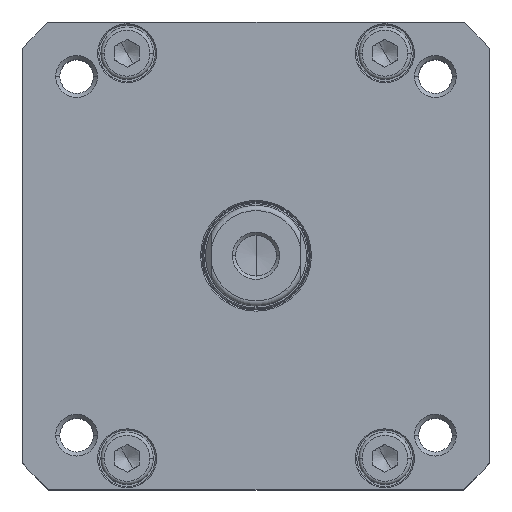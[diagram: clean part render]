
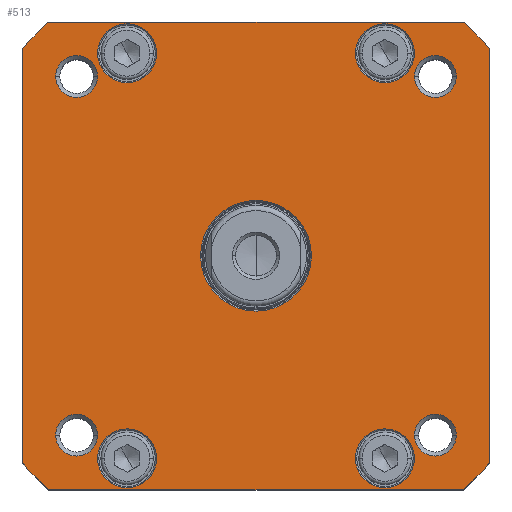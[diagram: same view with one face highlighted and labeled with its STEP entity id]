
A CAD part, top view. The second image highlights one B-rep face of the part: STEP entity #513.
In plain terms, the highlighted planar face has unit normal (0, 0, 1).
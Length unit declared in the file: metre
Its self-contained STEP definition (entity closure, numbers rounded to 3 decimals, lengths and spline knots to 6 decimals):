
#513=ADVANCED_FACE('',(#910,#911,#912,#913,#914,#915,#916,#917,#918,#919),#920,.F.);
#910=FACE_OUTER_BOUND('',#1615,.T.);
#911=FACE_BOUND('',#1616,.T.);
#912=FACE_BOUND('',#1617,.T.);
#913=FACE_BOUND('',#1618,.T.);
#914=FACE_BOUND('',#1619,.T.);
#915=FACE_BOUND('',#1620,.T.);
#916=FACE_BOUND('',#1621,.T.);
#917=FACE_BOUND('',#1622,.T.);
#918=FACE_BOUND('',#1623,.T.);
#919=FACE_BOUND('',#1624,.T.);
#920=PLANE('',#1625);
#1615=EDGE_LOOP('',(#2861,#2862,#2863,#2864,#2865,#2866,#2867,#2868));
#1616=EDGE_LOOP('',(#2869,#2870));
#1617=EDGE_LOOP('',(#2871,#2872));
#1618=EDGE_LOOP('',(#2873,#2874));
#1619=EDGE_LOOP('',(#2875,#2876));
#1620=EDGE_LOOP('',(#2877,#2878));
#1621=EDGE_LOOP('',(#2879,#2880));
#1622=EDGE_LOOP('',(#2881,#2882));
#1623=EDGE_LOOP('',(#2883,#2884));
#1624=EDGE_LOOP('',(#2885,#2886));
#1625=AXIS2_PLACEMENT_3D('',#2887,#2888,#2889);
#2861=ORIENTED_EDGE('',*,*,#4955,.F.);
#2862=ORIENTED_EDGE('',*,*,#4956,.F.);
#2863=ORIENTED_EDGE('',*,*,#4957,.F.);
#2864=ORIENTED_EDGE('',*,*,#4958,.F.);
#2865=ORIENTED_EDGE('',*,*,#4959,.F.);
#2866=ORIENTED_EDGE('',*,*,#4960,.F.);
#2867=ORIENTED_EDGE('',*,*,#4961,.F.);
#2868=ORIENTED_EDGE('',*,*,#4962,.F.);
#2869=ORIENTED_EDGE('',*,*,#4963,.F.);
#2870=ORIENTED_EDGE('',*,*,#4857,.F.);
#2871=ORIENTED_EDGE('',*,*,#4964,.F.);
#2872=ORIENTED_EDGE('',*,*,#4813,.F.);
#2873=ORIENTED_EDGE('',*,*,#4965,.F.);
#2874=ORIENTED_EDGE('',*,*,#4805,.F.);
#2875=ORIENTED_EDGE('',*,*,#4966,.F.);
#2876=ORIENTED_EDGE('',*,*,#4793,.F.);
#2877=ORIENTED_EDGE('',*,*,#4967,.F.);
#2878=ORIENTED_EDGE('',*,*,#4777,.F.);
#2879=ORIENTED_EDGE('',*,*,#4968,.F.);
#2880=ORIENTED_EDGE('',*,*,#4785,.F.);
#2881=ORIENTED_EDGE('',*,*,#4969,.F.);
#2882=ORIENTED_EDGE('',*,*,#4801,.F.);
#2883=ORIENTED_EDGE('',*,*,#4970,.F.);
#2884=ORIENTED_EDGE('',*,*,#4809,.F.);
#2885=ORIENTED_EDGE('',*,*,#4971,.F.);
#2886=ORIENTED_EDGE('',*,*,#4817,.F.);
#2887=CARTESIAN_POINT('',(0.,0.,0.117));
#2888=DIRECTION('',(0.0,0.0,-1.0));
#2889=DIRECTION('',(0.0,-1.0,0.0));
#4777=EDGE_CURVE('',#6032,#6034,#6035,.T.);
#4785=EDGE_CURVE('',#6046,#6048,#6049,.T.);
#4793=EDGE_CURVE('',#6060,#6062,#6063,.T.);
#4801=EDGE_CURVE('',#6074,#6076,#6077,.T.);
#4805=EDGE_CURVE('',#6080,#6083,#6084,.T.);
#4809=EDGE_CURVE('',#6088,#6091,#6092,.T.);
#4813=EDGE_CURVE('',#6096,#6099,#6100,.T.);
#4817=EDGE_CURVE('',#6104,#6107,#6108,.T.);
#4857=EDGE_CURVE('',#6168,#6170,#6171,.T.);
#4955=EDGE_CURVE('',#6353,#6354,#6355,.T.);
#4956=EDGE_CURVE('',#6356,#6353,#6357,.T.);
#4957=EDGE_CURVE('',#6358,#6356,#6359,.T.);
#4958=EDGE_CURVE('',#6360,#6358,#6361,.T.);
#4959=EDGE_CURVE('',#6362,#6360,#6363,.T.);
#4960=EDGE_CURVE('',#6364,#6362,#6365,.T.);
#4961=EDGE_CURVE('',#6366,#6364,#6367,.T.);
#4962=EDGE_CURVE('',#6354,#6366,#6368,.T.);
#4963=EDGE_CURVE('',#6170,#6168,#6369,.T.);
#4964=EDGE_CURVE('',#6099,#6096,#6370,.T.);
#4965=EDGE_CURVE('',#6083,#6080,#6371,.T.);
#4966=EDGE_CURVE('',#6062,#6060,#6372,.T.);
#4967=EDGE_CURVE('',#6034,#6032,#6373,.T.);
#4968=EDGE_CURVE('',#6048,#6046,#6374,.T.);
#4969=EDGE_CURVE('',#6076,#6074,#6375,.T.);
#4970=EDGE_CURVE('',#6091,#6088,#6376,.T.);
#4971=EDGE_CURVE('',#6107,#6104,#6377,.T.);
#6032=VERTEX_POINT('',#7534);
#6034=VERTEX_POINT('',#7537);
#6035=CIRCLE('',#7538,0.0073);
#6046=VERTEX_POINT('',#7552);
#6048=VERTEX_POINT('',#7555);
#6049=CIRCLE('',#7556,0.0073);
#6060=VERTEX_POINT('',#7570);
#6062=VERTEX_POINT('',#7573);
#6063=CIRCLE('',#7574,0.0073);
#6074=VERTEX_POINT('',#7588);
#6076=VERTEX_POINT('',#7591);
#6077=CIRCLE('',#7592,0.0073);
#6080=VERTEX_POINT('',#7596);
#6083=VERTEX_POINT('',#7600);
#6084=CIRCLE('',#7601,0.005188);
#6088=VERTEX_POINT('',#7606);
#6091=VERTEX_POINT('',#7610);
#6092=CIRCLE('',#7611,0.005188);
#6096=VERTEX_POINT('',#7616);
#6099=VERTEX_POINT('',#7620);
#6100=CIRCLE('',#7621,0.005188);
#6104=VERTEX_POINT('',#7626);
#6107=VERTEX_POINT('',#7630);
#6108=CIRCLE('',#7631,0.005188);
#6168=VERTEX_POINT('',#7710);
#6170=VERTEX_POINT('',#7713);
#6171=CIRCLE('',#7714,0.01375);
#6353=VERTEX_POINT('',#8149);
#6354=VERTEX_POINT('',#8150);
#6355=LINE('',#8151,#8152);
#6356=VERTEX_POINT('',#8153);
#6357=CIRCLE('',#8154,0.0775);
#6358=VERTEX_POINT('',#8155);
#6359=LINE('',#8156,#8157);
#6360=VERTEX_POINT('',#8158);
#6361=CIRCLE('',#8159,0.0775);
#6362=VERTEX_POINT('',#8160);
#6363=LINE('',#8161,#8162);
#6364=VERTEX_POINT('',#8163);
#6365=CIRCLE('',#8164,0.0775);
#6366=VERTEX_POINT('',#8165);
#6367=LINE('',#8166,#8167);
#6368=CIRCLE('',#8168,0.0775);
#6369=CIRCLE('',#8169,0.01375);
#6370=CIRCLE('',#8170,0.005188);
#6371=CIRCLE('',#8171,0.005188);
#6372=CIRCLE('',#8172,0.0073);
#6373=CIRCLE('',#8173,0.0073);
#6374=CIRCLE('',#8174,0.0073);
#6375=CIRCLE('',#8175,0.0073);
#6376=CIRCLE('',#8176,0.005188);
#6377=CIRCLE('',#8177,0.005188);
#7534=CARTESIAN_POINT('',(-0.0247,0.05025,0.117));
#7537=CARTESIAN_POINT('',(-0.0393,0.05025,0.117));
#7538=AXIS2_PLACEMENT_3D('',#9975,#9976,#9977);
#7552=CARTESIAN_POINT('',(0.0393,0.05025,0.117));
#7555=CARTESIAN_POINT('',(0.0247,0.05025,0.117));
#7556=AXIS2_PLACEMENT_3D('',#9991,#9992,#9993);
#7570=CARTESIAN_POINT('',(0.0393,-0.05025,0.117));
#7573=CARTESIAN_POINT('',(0.0247,-0.05025,0.117));
#7574=AXIS2_PLACEMENT_3D('',#10007,#10008,#10009);
#7588=CARTESIAN_POINT('',(-0.0247,-0.05025,0.117));
#7591=CARTESIAN_POINT('',(-0.0393,-0.05025,0.117));
#7592=AXIS2_PLACEMENT_3D('',#10023,#10024,#10025);
#7596=CARTESIAN_POINT('',(0.049688,-0.0445,0.117));
#7600=CARTESIAN_POINT('',(0.039312,-0.0445,0.117));
#7601=AXIS2_PLACEMENT_3D('',#10031,#10032,#10033);
#7606=CARTESIAN_POINT('',(0.049688,0.0445,0.117));
#7610=CARTESIAN_POINT('',(0.039312,0.0445,0.117));
#7611=AXIS2_PLACEMENT_3D('',#10039,#10040,#10041);
#7616=CARTESIAN_POINT('',(-0.039312,0.0445,0.117));
#7620=CARTESIAN_POINT('',(-0.049688,0.0445,0.117));
#7621=AXIS2_PLACEMENT_3D('',#10047,#10048,#10049);
#7626=CARTESIAN_POINT('',(-0.039312,-0.0445,0.117));
#7630=CARTESIAN_POINT('',(-0.049688,-0.0445,0.117));
#7631=AXIS2_PLACEMENT_3D('',#10055,#10056,#10057);
#7710=CARTESIAN_POINT('',(0.,0.01375,0.117));
#7713=CARTESIAN_POINT('',(0.,-0.01375,0.117));
#7714=AXIS2_PLACEMENT_3D('',#10135,#10136,#10137);
#8149=CARTESIAN_POINT('',(-0.051403,0.058,0.117));
#8150=CARTESIAN_POINT('',(0.051403,0.058,0.117));
#8151=CARTESIAN_POINT('',(-0.051403,0.058,0.117));
#8152=VECTOR('',#10289,0.102806);
#8153=CARTESIAN_POINT('',(-0.058,0.051403,0.117));
#8154=AXIS2_PLACEMENT_3D('',#10290,#10291,#10292);
#8155=CARTESIAN_POINT('',(-0.058,-0.051403,0.117));
#8156=CARTESIAN_POINT('',(-0.058,-0.051403,0.117));
#8157=VECTOR('',#10293,0.102806);
#8158=CARTESIAN_POINT('',(-0.051403,-0.058,0.117));
#8159=AXIS2_PLACEMENT_3D('',#10294,#10295,#10296);
#8160=CARTESIAN_POINT('',(0.051403,-0.058,0.117));
#8161=CARTESIAN_POINT('',(0.051403,-0.058,0.117));
#8162=VECTOR('',#10297,0.102806);
#8163=CARTESIAN_POINT('',(0.058,-0.051403,0.117));
#8164=AXIS2_PLACEMENT_3D('',#10298,#10299,#10300);
#8165=CARTESIAN_POINT('',(0.058,0.051403,0.117));
#8166=CARTESIAN_POINT('',(0.058,0.051403,0.117));
#8167=VECTOR('',#10301,0.102806);
#8168=AXIS2_PLACEMENT_3D('',#10302,#10303,#10304);
#8169=AXIS2_PLACEMENT_3D('',#10305,#10306,#10307);
#8170=AXIS2_PLACEMENT_3D('',#10308,#10309,#10310);
#8171=AXIS2_PLACEMENT_3D('',#10311,#10312,#10313);
#8172=AXIS2_PLACEMENT_3D('',#10314,#10315,#10316);
#8173=AXIS2_PLACEMENT_3D('',#10317,#10318,#10319);
#8174=AXIS2_PLACEMENT_3D('',#10320,#10321,#10322);
#8175=AXIS2_PLACEMENT_3D('',#10323,#10324,#10325);
#8176=AXIS2_PLACEMENT_3D('',#10326,#10327,#10328);
#8177=AXIS2_PLACEMENT_3D('',#10329,#10330,#10331);
#9975=CARTESIAN_POINT('',(-0.032,0.05025,0.117));
#9976=DIRECTION('',(0.0,0.0,1.0));
#9977=DIRECTION('',(1.0,0.0,0.0));
#9991=CARTESIAN_POINT('',(0.032,0.05025,0.117));
#9992=DIRECTION('',(0.0,0.0,1.0));
#9993=DIRECTION('',(1.0,0.0,0.0));
#10007=CARTESIAN_POINT('',(0.032,-0.05025,0.117));
#10008=DIRECTION('',(0.0,0.0,1.0));
#10009=DIRECTION('',(1.0,0.0,0.0));
#10023=CARTESIAN_POINT('',(-0.032,-0.05025,0.117));
#10024=DIRECTION('',(0.0,0.0,1.0));
#10025=DIRECTION('',(1.0,0.0,0.0));
#10031=CARTESIAN_POINT('',(0.0445,-0.0445,0.117));
#10032=DIRECTION('',(0.0,0.0,1.0));
#10033=DIRECTION('',(1.0,0.0,0.0));
#10039=CARTESIAN_POINT('',(0.0445,0.0445,0.117));
#10040=DIRECTION('',(0.0,0.0,1.0));
#10041=DIRECTION('',(1.0,0.0,0.0));
#10047=CARTESIAN_POINT('',(-0.0445,0.0445,0.117));
#10048=DIRECTION('',(0.0,0.0,1.0));
#10049=DIRECTION('',(1.0,0.0,0.0));
#10055=CARTESIAN_POINT('',(-0.0445,-0.0445,0.117));
#10056=DIRECTION('',(0.0,0.0,1.0));
#10057=DIRECTION('',(1.0,0.0,0.0));
#10135=CARTESIAN_POINT('',(0.0,0.,0.117));
#10136=DIRECTION('',(0.0,-0.0,1.0));
#10137=DIRECTION('',(0.0,1.0,0.0));
#10289=DIRECTION('',(1.0,0.0,0.0));
#10290=CARTESIAN_POINT('',(0.0,0.,0.117));
#10291=DIRECTION('',(0.0,0.0,-1.0));
#10292=DIRECTION('',(-0.748,0.663,0.0));
#10293=DIRECTION('',(0.0,1.0,0.0));
#10294=CARTESIAN_POINT('',(0.0,0.,0.117));
#10295=DIRECTION('',(-0.0,0.0,-1.0));
#10296=DIRECTION('',(-0.663,-0.748,0.0));
#10297=DIRECTION('',(-1.0,0.0,0.0));
#10298=CARTESIAN_POINT('',(0.0,0.,0.117));
#10299=DIRECTION('',(0.0,0.0,-1.0));
#10300=DIRECTION('',(0.748,-0.663,0.0));
#10301=DIRECTION('',(0.0,-1.0,0.0));
#10302=CARTESIAN_POINT('',(0.0,0.,0.117));
#10303=DIRECTION('',(0.0,0.0,-1.0));
#10304=DIRECTION('',(0.663,0.748,0.0));
#10305=CARTESIAN_POINT('',(0.0,0.,0.117));
#10306=DIRECTION('',(0.0,-0.0,1.0));
#10307=DIRECTION('',(0.0,1.0,0.0));
#10308=CARTESIAN_POINT('',(-0.0445,0.0445,0.117));
#10309=DIRECTION('',(0.0,0.0,1.0));
#10310=DIRECTION('',(1.0,0.0,0.0));
#10311=CARTESIAN_POINT('',(0.0445,-0.0445,0.117));
#10312=DIRECTION('',(0.0,0.0,1.0));
#10313=DIRECTION('',(1.0,0.0,0.0));
#10314=CARTESIAN_POINT('',(0.032,-0.05025,0.117));
#10315=DIRECTION('',(0.0,0.0,1.0));
#10316=DIRECTION('',(1.0,0.0,0.0));
#10317=CARTESIAN_POINT('',(-0.032,0.05025,0.117));
#10318=DIRECTION('',(0.0,0.0,1.0));
#10319=DIRECTION('',(1.0,0.0,0.0));
#10320=CARTESIAN_POINT('',(0.032,0.05025,0.117));
#10321=DIRECTION('',(0.0,0.0,1.0));
#10322=DIRECTION('',(1.0,0.0,0.0));
#10323=CARTESIAN_POINT('',(-0.032,-0.05025,0.117));
#10324=DIRECTION('',(0.0,0.0,1.0));
#10325=DIRECTION('',(1.0,0.0,0.0));
#10326=CARTESIAN_POINT('',(0.0445,0.0445,0.117));
#10327=DIRECTION('',(0.0,0.0,1.0));
#10328=DIRECTION('',(1.0,0.0,0.0));
#10329=CARTESIAN_POINT('',(-0.0445,-0.0445,0.117));
#10330=DIRECTION('',(0.0,0.0,1.0));
#10331=DIRECTION('',(1.0,0.0,0.0));
